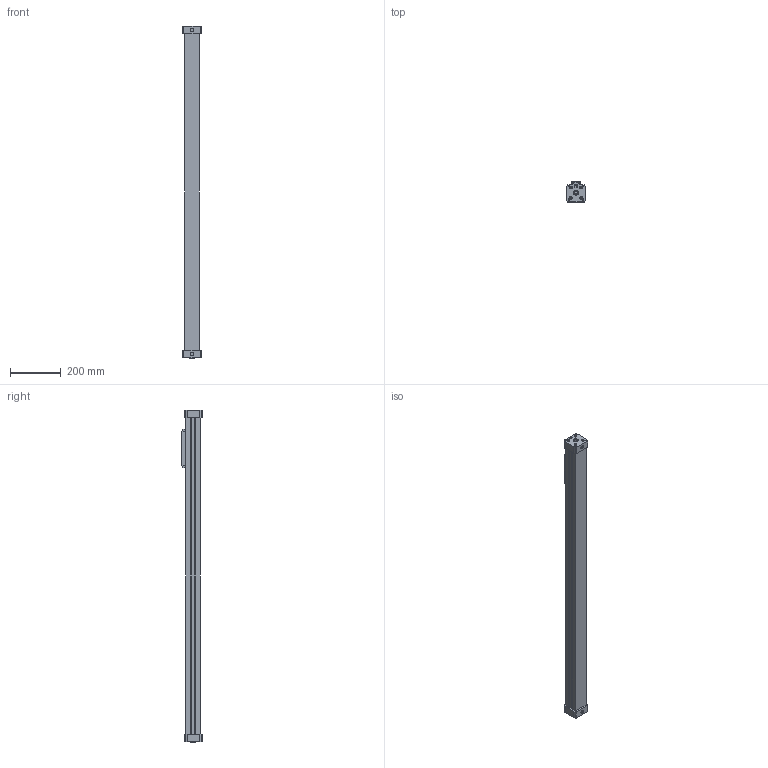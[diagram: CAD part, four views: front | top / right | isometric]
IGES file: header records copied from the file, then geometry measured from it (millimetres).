
Start section: SolidWorks IGES file using analytic representation for surfaces
Global section: file name: c:\CATALO3D\IGS\RLF40.1000.IGS; native system: SolidWorks 2005 by SolidWorks Corporation; preprocessor: SolidWorks 2005 by SolidWorks Corporation; author: tania; date: 051219.175205; units: millimetre
Bounding box: 72 x 80 x 1302 mm (x, y, z)
Surface area: 622631.3 mm2 (no closed solid volume)
Topology: 0 solids, 0 shells, 1569 faces, 25766 edges, 32746 vertices
Faces by surface type: revolution 1131, bspline 438
